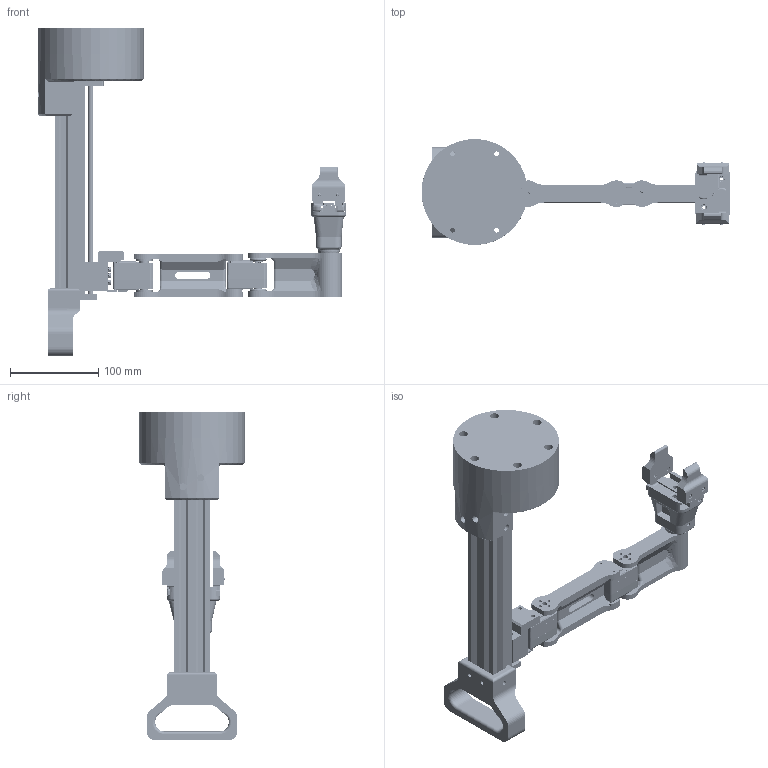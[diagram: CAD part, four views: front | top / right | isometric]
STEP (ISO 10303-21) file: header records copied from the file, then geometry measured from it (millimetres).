
FILE_DESCRIPTION(/* description */ (''),/* implementation_level */ '2;1');
FILE_NAME(/* name */ 'Assieme_scara_linear_guide.03.stp',/* time_stamp */ '2025-11-16T07:31:30+01:00',/* author */ ('R5800u'),/* organization */ (''),/* preprocessor_version */ 'ST-DEVELOPER v20',/* originating_system */ 'Autodesk Inventor 2025',/* authorisation */ '');
FILE_SCHEMA (('AUTOMOTIVE_DESIGN { 1 0 10303 214 3 1 1 }'));
Products named in the file (65): Assieme_scara_02; base1; blocco_motore1; sts3215_flangia_t1; Сборка14_3; SCS215_7_3; flangia3; AS 1112 - M3  Tipo 5; BS 4168 - M2,5 x 12; AS 1420 - 1973 - M4 x 30; tslot 2040; Assieme_profilato; profilato; profilato_cuscinetto; profilato_motore; Nema11; 00144585; 00144585_01; 00144585_02; 00144585_03; 00144585_04; 00144585_05; 00144585_06; 00144585_07; 00144585_08; 00144585_09; 00144585_10; 00144585_11; 00144585_12; 00144585_13; 00144585_14; Actuator_MGN9; AS 1420 - 1973 - M3 x 6; Actuator_MGN9C; Carriage; AS 1420 - 1973 - M3 x 12; braccio1_smusso; sts3215_flangia_t1_1; Сборка14_3_1; SCS215_7_3_1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
Assembly tree (98 placements, depth 5):
  Assieme_scara_02
    base1
    blocco_motore1
    sts3215_flangia_t1
      Сборка14_3
        SCS215_7_3
          ZK_122
          SG-ZIJI_15
          XG-ZIJI_16
          MOTOR-1723_3
          PCB-CHAZUO_92
          GE_27
          金属舵盘（驱动）
          金属舵盘（从动）
      flangia3
    AS 1420 - 1973 - M3 x 12  x4
    AS 1112 - M3  Tipo 5  x4
    BS 4168 - M2,5 x 12  x4
    AS 1420 - 1973 - M4 x 30  x4
    tslot 2040
    Assieme_profilato
      profilato
      profilato_cuscinetto
      profilato_motore
      Nema11
      00144585
        00144585_01
        00144585_02
        00144585_03
        00144585_04
        00144585_05
        00144585_06
        00144585_07
        00144585_08
        00144585_09
        00144585_10
        00144585_11
        00144585_12
        00144585_13
        00144585_14
      Actuator_MGN9
      AS 1420 - 1973 - M3 x 6  x4
      Actuator_MGN9C
      Carriage
      AS 1420 - 1973 - M3 x 12  x4
    braccio1_smusso
    sts3215_flangia_t1_1
      Сборка14_3_1
        SCS215_7_3_1
          ZK_122
          SG-ZIJI_15
          XG-ZIJI_16
          MOTOR-1723_3
          PCB-CHAZUO_92
          GE_27
          金属舵盘（驱动）
          金属舵盘（从动）
    maniglia
    disco_120
    braccio3_smusso
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Bounding box: 349.55 x 120 x 372 mm (x, y, z)
Volume: 1261201.2 mm3; surface area: 403920 mm2
Topology: 89 solids, 113 shells, 4991 faces, 13731 edges, 9191 vertices
Faces by surface type: plane 2550, cylinder 1675, bspline 320, cone 256, torus 138, sphere 52
Full cylindrical faces by diameter (mm): 1 x2, 1.03 x6, 1.167 x3, 1.2 x4, 1.5 x4, 1.6 x26, 1.755 x1, 2 x10, 2.05 x4, 2.2 x18, 2.3 x4, 2.4 x12, 2.459 x10, 2.47 x1, 2.5 x81, 2.6 x2, 2.8 x4, 2.9 x4, 3 x27, 3.2 x38, 3.242 x4, 3.4 x32, 3.5 x11, 4 x7, 4.3 x6, 4.5 x12, 4.69 x1, 4.7 x2, 4.8 x1, 5 x7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
Entity records: 163020 total; most frequent: CARTESIAN_POINT 74736, ORIENTED_EDGE 18158, DIRECTION 17240, EDGE_CURVE 9079, VERTEX_POINT 6093, AXIS2_PLACEMENT_3D 5972, LINE 5296, VECTOR 5296
